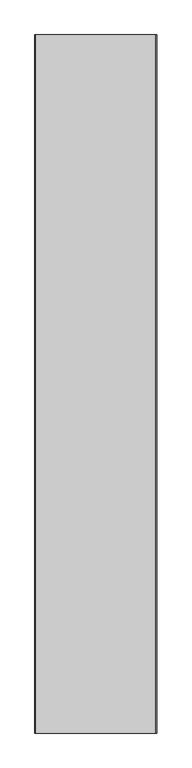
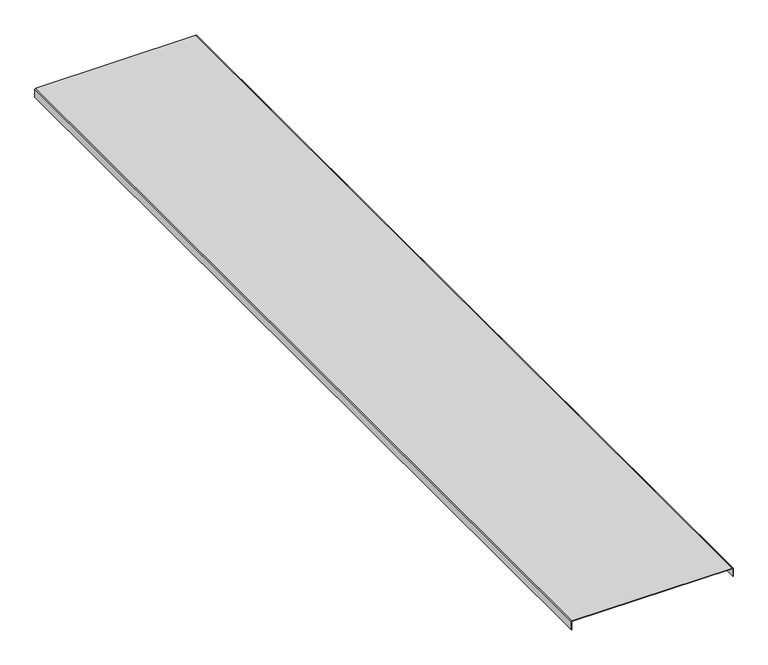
"""IFC4 building model written with IfcOpenShell, lengths in millimetres: proxy geometry, Cable_Tray_Cover_CT_Basorcanal : Basorcanal CT 100X300 (cover)."""

import ifcopenshell
import ifcopenshell.guid

model = None  # the IFC model being written
_history = None  # IfcOwnerHistory: only IFC2X3 demands one
_inside = {}  # id of a spatial element -> (the spatial element, [elements in it])
_under = {}  # id of a project, library or spatial element -> (it, [spatial elements below it])
_declared = {}  # id of a project -> (the project, [libraries it declares])
_typed = {}  # id of a type object -> (the type object, [elements of that type])
_made_of = {}  # id of a material, layer set ... -> (it, [elements and type objects made of it])


def new_model(schema):
    """Start an empty IFC model of exactly this schema.

    Asked for "IFC4X3", IfcOpenShell would pick the latest addendum, in which some entities
    have other attributes; the version numbers below select the first issue.
    IFC2X3 requires an IfcOwnerHistory on every rooted entity: one is made here for all.
    """
    global model, _history
    if schema == "IFC4X3":
        model = ifcopenshell.file(schema_version=(4, 3, 0, 0))
    else:
        model = ifcopenshell.file(schema=schema)
    _inside.clear()
    _under.clear()
    _declared.clear()
    _typed.clear()
    _made_of.clear()
    _history = None
    if model.schema == "IFC2X3":
        org = make("IfcOrganization", Name="unknown")
        user = make(
            "IfcPersonAndOrganization",
            ThePerson=make("IfcPerson", FamilyName="unknown"),
            TheOrganization=org,
        )
        app = make(
            "IfcApplication",
            ApplicationDeveloper=org,
            Version="unknown",
            ApplicationFullName="unknown",
            ApplicationIdentifier="unknown",
        )
        _history = make(
            "IfcOwnerHistory",
            OwningUser=user,
            OwningApplication=app,
            ChangeAction="ADDED",
            CreationDate=0,
        )
    return model


def make(cls, **values):
    """One entity of the class cls with the attributes given. An attribute that is None is left unset."""
    return model.create_entity(
        cls, **{name: value for name, value in values.items() if value is not None}
    )


def rooted(cls, **values):
    """An entity with a GlobalId (a new one), such as an element, a storey or a relation."""
    return make(cls, GlobalId=ifcopenshell.guid.new(), OwnerHistory=_history, **values)


def si_unit(unit_type, name, prefix=None):
    """IfcSIUnit, for example si_unit("LENGTHUNIT", "METRE", prefix="MILLI")."""
    return make("IfcSIUnit", UnitType=unit_type, Prefix=prefix, Name=name)


def assignment(units):
    """IfcUnitAssignment: the units of a project."""
    return None if units is None else make("IfcUnitAssignment", Units=units)


def point(xyz):
    """IfcCartesianPoint."""
    return None if xyz is None else make("IfcCartesianPoint", Coordinates=xyz)


def direction(xyz):
    """IfcDirection."""
    return None if xyz is None else make("IfcDirection", DirectionRatios=xyz)


def frame(location, z_axis=None, x_axis=None):
    """IfcAxis2Placement3D, a coordinate frame: its origin and axes. An axis left out is left unset."""
    return make(
        "IfcAxis2Placement3D",
        Location=point(location),
        Axis=direction(z_axis),
        RefDirection=direction(x_axis),
    )


def frame_2d(location, x_axis=None):
    """IfcAxis2Placement2D, a coordinate frame in the plane: its origin and x axis."""
    return make(
        "IfcAxis2Placement2D", Location=point(location), RefDirection=direction(x_axis)
    )


def origin():
    """The frame at (0, 0, 0) with its axes left unset."""
    return frame((0.0, 0.0, 0.0))


def place(relative_to, where):
    """IfcLocalPlacement: puts the frame where relative to a parent placement (None: the world)."""
    return make(
        "IfcLocalPlacement", PlacementRelTo=relative_to, RelativePlacement=where
    )


def context(
    kind, dimensions, precision=None, world=None, true_north=None, identifier=None
):
    """IfcGeometricRepresentationContext, for example the 3D "Model" context."""
    return make(
        "IfcGeometricRepresentationContext",
        ContextIdentifier=identifier,
        ContextType=kind,
        CoordinateSpaceDimension=dimensions,
        Precision=precision,
        WorldCoordinateSystem=world,
        TrueNorth=true_north,
    )


def project(units=None, contexts=None):
    """IfcProject with its units and contexts."""
    return rooted(
        "IfcProject",
        Name="project",
        RepresentationContexts=contexts,
        UnitsInContext=assignment(units),
    )


def spatial(cls, under=None, at=None, **own):
    """A site, building, storey or space (cls), placed at a placement, below another one or the project."""
    s = rooted(cls, ObjectPlacement=at, **own)
    if under is not None:
        _under.setdefault(under.id(), (under, []))[1].append(s)
    return s


def polyline(points):
    """IfcPolyline through the points."""
    return make("IfcPolyline", Points=[point(p) for p in points])


def circle_curve(where, radius):
    """IfcCircle in the frame where."""
    return make("IfcCircle", Position=where, Radius=radius)


def trimmed(basis, trim1, trim2, sense, master):
    """IfcTrimmedCurve: the piece of a basis curve between two trims."""
    return make(
        "IfcTrimmedCurve",
        BasisCurve=basis,
        Trim1=trim1,
        Trim2=trim2,
        SenseAgreement=sense,
        MasterRepresentation=master,
    )


def segment(curve, same_sense, transition):
    """IfcCompositeCurveSegment."""
    return make(
        "IfcCompositeCurveSegment",
        Transition=transition,
        SameSense=same_sense,
        ParentCurve=curve,
    )


def composite_curve(segments, self_intersect=None):
    """IfcCompositeCurve: segments joined end to end."""
    return make("IfcCompositeCurve", Segments=segments, SelfIntersect=self_intersect)


def outline(outer, holes=None, kind="AREA"):
    """IfcArbitraryClosedProfileDef: a profile drawn as a closed curve; with holes, ...WithVoids."""
    if holes is None:
        return make("IfcArbitraryClosedProfileDef", ProfileType=kind, OuterCurve=outer)
    return make(
        "IfcArbitraryProfileDefWithVoids",
        ProfileType=kind,
        OuterCurve=outer,
        InnerCurves=holes,
    )


def extrude(swept, where, along, depth):
    """IfcExtrudedAreaSolid: the profile swept, set in the frame where, extruded along a direction by depth."""
    return make(
        "IfcExtrudedAreaSolid",
        SweptArea=swept,
        Position=where,
        ExtrudedDirection=direction(along),
        Depth=depth,
    )


def shape(context_of_items, identifier, shape_type, items):
    """IfcShapeRepresentation: the items that make up one representation, for example the "Body"."""
    return make(
        "IfcShapeRepresentation",
        ContextOfItems=context_of_items,
        RepresentationIdentifier=identifier,
        RepresentationType=shape_type,
        Items=items,
    )


def source(mapping_origin, context_of_items, identifier, shape_type, items):
    """IfcRepresentationMap: a shape defined once, which mapped items show again and again."""
    return make(
        "IfcRepresentationMap",
        MappingOrigin=mapping_origin,
        MappedRepresentation=shape(context_of_items, identifier, shape_type, items),
    )


def transform(
    local_origin,
    x_axis=None,
    y_axis=None,
    z_axis=None,
    scale=None,
    scale2=None,
    scale3=None,
    uniform=True,
):
    """IfcCartesianTransformationOperator3D, or its non-uniform kind. x_axis, y_axis, z_axis: its Axis1, 2, 3."""
    if uniform:
        return make(
            "IfcCartesianTransformationOperator3D",
            Axis1=direction(x_axis),
            Axis2=direction(y_axis),
            LocalOrigin=point(local_origin),
            Scale=scale,
            Axis3=direction(z_axis),
        )
    return make(
        "IfcCartesianTransformationOperator3DnonUniform",
        Axis1=direction(x_axis),
        Axis2=direction(y_axis),
        LocalOrigin=point(local_origin),
        Scale=scale,
        Axis3=direction(z_axis),
        Scale2=scale2,
        Scale3=scale3,
    )


def mapped(mapping_source, mapping_target):
    """IfcMappedItem: shows the shape of a source again, moved by a transform."""
    return make(
        "IfcMappedItem", MappingSource=mapping_source, MappingTarget=mapping_target
    )


def made_of(thing, what):
    """Note that an element or type object is made of a material, layer set ...; save() writes the relation."""
    if what is not None:
        _made_of.setdefault(what.id(), (what, []))[1].append(thing)
    return thing


def element(
    cls,
    number,
    at=None,
    inside=None,
    cuts=None,
    type_object=None,
    material=None,
    context=None,
    identifier="Body",
    shape_type=None,
    held_by="IfcProductDefinitionShape",
    body=None,
    shapes=None,
    **own,
):
    """One element of the class cls, such as IfcWall. Its Tag is "e" and its number.

    at: its placement. inside: the storey or other place that contains it. cuts: it is an
    opening in that element (IfcRelVoidsElement). A single representation is given by context,
    identifier, shape_type and body (its items); several are given by shapes. held_by: the class
    of the entity that holds the representations. save() writes the other relations.
    """
    e = rooted(cls, Tag="e%d" % number, ObjectPlacement=at, **own)
    if body is not None:
        shapes = [shape(context, identifier, shape_type, body)]
    if shapes is not None:
        e.Representation = make(held_by, Representations=shapes)
    if inside is not None:
        _inside.setdefault(inside.id(), (inside, []))[1].append(e)
    if cuts is not None:
        rooted(
            "IfcRelVoidsElement", RelatingBuildingElement=cuts, RelatedOpeningElement=e
        )
    if type_object is not None:
        _typed.setdefault(type_object.id(), (type_object, []))[1].append(e)
    return made_of(e, material)


def aggregate(whole, parts):
    """IfcRelAggregates: a whole, such as a stair, and the parts it consists of."""
    return rooted("IfcRelAggregates", RelatingObject=whole, RelatedObjects=parts)


def save(model, path):
    """Write the relations noted so far, then the file.

    IfcRelAggregates (storeys below a building ...), IfcRelContainedInSpatialStructure (elements
    in a storey), IfcRelDefinesByType, IfcRelAssociatesMaterial and IfcRelDeclares: one each for
    every whole, place, type object, material and project.
    """
    for whole, parts in _under.values():
        aggregate(whole, parts)
    for where, things in _inside.values():
        rooted(
            "IfcRelContainedInSpatialStructure",
            RelatedElements=things,
            RelatingStructure=where,
        )
    for kind, things in _typed.values():
        rooted("IfcRelDefinesByType", RelatedObjects=things, RelatingType=kind)
    for what, things in _made_of.values():
        rooted("IfcRelAssociatesMaterial", RelatedObjects=things, RelatingMaterial=what)
    for by, libraries in _declared.values():
        rooted("IfcRelDeclares", RelatingContext=by, RelatedDefinitions=libraries)
    model.write(path)


def generic_models_762c7957(model_context):
    return source(origin(), model_context, "Body", "SweptSolid", [
        extrude(outline(composite_curve([segment(trimmed(circle_curve(frame_2d((-1.0, -149.0)), 1.0), [point((-1.0, -150.0))], [point((0.0, -149.0))], True, "CARTESIAN"), True, "CONTINUOUS"), segment(polyline([(0.0, -149.0), (0.0, 149.0)]), True, "CONTINUOUS"), segment(trimmed(circle_curve(frame_2d((-1.0, 149.0)), 1.0), [point((0.0, 149.0))], [point((-1.0, 150.0))], True, "CARTESIAN"), True, "CONTINUOUS"), segment(polyline([(-1.0, 150.0), (-16.0, 150.0), (-16.0, 151.0), (-1.0, 151.0)]), True, "CONTINUOUS"), segment(trimmed(circle_curve(frame_2d((-1.0, 149.0)), 2.0), [point((-1.0, 151.0))], [point((1.0, 149.0))], False, "CARTESIAN"), True, "CONTINUOUS"), segment(polyline([(1.0, 149.0), (1.0, -149.0)]), True, "CONTINUOUS"), segment(trimmed(circle_curve(frame_2d((-1.0, -149.0)), 2.0), [point((1.0, -149.0))], [point((-1.0, -151.0))], False, "CARTESIAN"), True, "CONTINUOUS"), segment(polyline([(-1.0, -151.0), (-16.0, -151.0), (-16.0, -150.0), (-1.0, -150.0)]), True, "CONTINUOUS")], self_intersect=False)), frame((0.0, 0.0, 0.0), z_axis=(0.0, 1.0, 0.0), x_axis=(0.0, 0.0, 1.0)), (0.0, 0.0, 1.0), 1732.4),
    ])


if __name__ == "__main__":
    model = new_model("IFC4")
    model_context = context("Model", 3, world=origin())
    ifc_project = project(units=[si_unit("LENGTHUNIT", "METRE", prefix="MILLI")], contexts=[model_context])
    site = spatial("IfcSite", under=ifc_project)
    building = spatial("IfcBuilding", under=site)
    placement = place(None, origin())
    generic_models_shape = generic_models_762c7957(model_context)
    element("IfcBuildingElementProxy", 1, Name="Cable_Tray_Cover_CT_Basorcanal : Basorcanal CT 100X300 (cover)", ObjectType="Cable_Tray_Cover_CT_Basorcanal : Basorcanal CT 100X300 (cover)", at=placement, inside=building, context=model_context, shape_type="MappedRepresentation", body=[
        mapped(generic_models_shape, transform((0.0, 0.0, 0.0), x_axis=(1.0, 0.0, 0.0), y_axis=(0.0, 1.0, 0.0), z_axis=(0.0, 0.0, 1.0))),
    ])
    save(model, "model.ifc")
